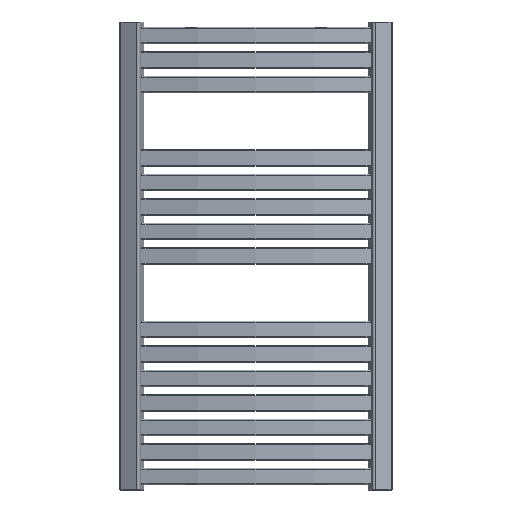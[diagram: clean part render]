
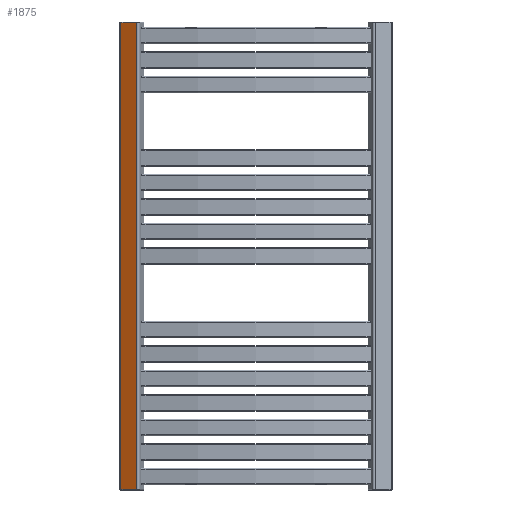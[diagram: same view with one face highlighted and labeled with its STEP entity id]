
A CAD part, front view. The second image highlights one B-rep face of the part: STEP entity #1875.
In plain terms, the highlighted planar face has unit normal (-0.515, -0.857, 0).
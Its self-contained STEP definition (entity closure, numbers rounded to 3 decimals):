
#249=CARTESIAN_POINT('',(-248.242,-5.701,1.5));
#250=VERTEX_POINT('',#249);
#298=CARTESIAN_POINT('',(-218.958,-23.297,1.5));
#299=VERTEX_POINT('',#298);
#307=CARTESIAN_POINT('',(-218.958,-23.297,1.5));
#308=DIRECTION('',(-0.857,0.515,0.0));
#309=VECTOR('',#308,34.164);
#310=LINE('',#307,#309);
#311=EDGE_CURVE('',#299,#250,#310,.T.);
#524=CARTESIAN_POINT('',(-248.242,-5.701,858.5));
#525=VERTEX_POINT('',#524);
#526=CARTESIAN_POINT('',(-248.242,-5.701,1.5));
#527=DIRECTION('',(0.0,0.0,1.0));
#528=VECTOR('',#527,857.0);
#529=LINE('',#526,#528);
#530=EDGE_CURVE('',#250,#525,#529,.T.);
#582=CARTESIAN_POINT('',(-218.958,-23.297,858.5));
#583=VERTEX_POINT('',#582);
#600=CARTESIAN_POINT('',(-248.242,-5.701,858.5));
#601=DIRECTION('',(0.857,-0.515,0.0));
#602=VECTOR('',#601,34.164);
#603=LINE('',#600,#602);
#604=EDGE_CURVE('',#525,#583,#603,.T.);
#1855=CARTESIAN_POINT('',(-218.958,-23.297,858.5));
#1856=DIRECTION('',(0.0,0.0,-1.0));
#1857=VECTOR('',#1856,857.0);
#1858=LINE('',#1855,#1857);
#1859=EDGE_CURVE('',#583,#299,#1858,.T.);
#1864=CARTESIAN_POINT('',(-215.048,-25.646,0.0));
#1865=DIRECTION('',(-0.515,-0.857,0.0));
#1866=DIRECTION('',(0.0,0.0,1.0));
#1867=AXIS2_PLACEMENT_3D('',#1864,#1865,#1866);
#1868=PLANE('',#1867);
#1869=ORIENTED_EDGE('',*,*,#311,.F.);
#1870=ORIENTED_EDGE('',*,*,#1859,.F.);
#1871=ORIENTED_EDGE('',*,*,#604,.F.);
#1872=ORIENTED_EDGE('',*,*,#530,.F.);
#1873=EDGE_LOOP('',(#1869,#1870,#1871,#1872));
#1874=FACE_OUTER_BOUND('',#1873,.T.);
#1875=ADVANCED_FACE('',(#1874),#1868,.T.);
